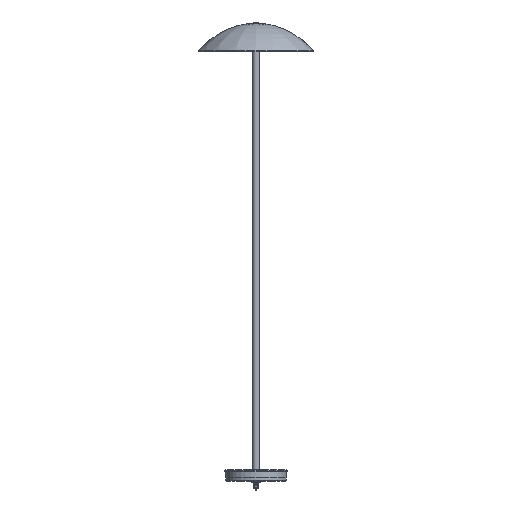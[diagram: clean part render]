
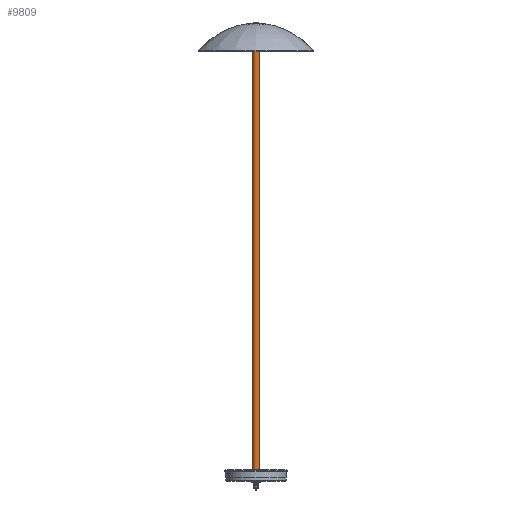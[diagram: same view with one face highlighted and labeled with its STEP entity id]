
A CAD part, front view. The second image highlights one B-rep face of the part: STEP entity #9809.
In plain terms, the highlighted cylindrical face has radius 10 mm (diameter 20 mm), a full revolution.
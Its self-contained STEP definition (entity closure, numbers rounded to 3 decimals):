
#767=CYLINDRICAL_SURFACE('',#10995,10.);
#1165=CIRCLE('',#10992,10.);
#1168=CIRCLE('',#10996,10.);
#1732=FACE_OUTER_BOUND('',#2363,.T.);
#2363=EDGE_LOOP('',(#8934,#8935,#8936,#8937));
#3127=LINE('',#21721,#3870);
#3870=VECTOR('',#13817,10.);
#4782=VERTEX_POINT('',#21492);
#4785=VERTEX_POINT('',#21719);
#6168=EDGE_CURVE('',#4782,#4782,#1165,.T.);
#6172=EDGE_CURVE('',#4785,#4785,#1168,.T.);
#6173=EDGE_CURVE('',#4785,#4782,#3127,.T.);
#8934=ORIENTED_EDGE('',*,*,#6172,.F.);
#8935=ORIENTED_EDGE('',*,*,#6173,.T.);
#8936=ORIENTED_EDGE('',*,*,#6168,.T.);
#8937=ORIENTED_EDGE('',*,*,#6173,.F.);
#9809=ADVANCED_FACE('',(#1732),#767,.T.);
#10992=AXIS2_PLACEMENT_3D('',#21493,#13807,#13808);
#10995=AXIS2_PLACEMENT_3D('',#21718,#13813,#13814);
#10996=AXIS2_PLACEMENT_3D('',#21720,#13815,#13816);
#13807=DIRECTION('center_axis',(0.,0.,-1.));
#13808=DIRECTION('ref_axis',(1.,0.,0.));
#13813=DIRECTION('center_axis',(0.,0.,-1.));
#13814=DIRECTION('ref_axis',(0.,1.,0.));
#13815=DIRECTION('center_axis',(0.,0.,-1.));
#13816=DIRECTION('ref_axis',(1.,0.,0.));
#13817=DIRECTION('',(0.,0.,1.));
#21492=CARTESIAN_POINT('',(0.,-10.,1042.));
#21493=CARTESIAN_POINT('Origin',(0.,0.,1042.));
#21718=CARTESIAN_POINT('Origin',(0.,0.,432.5));
#21719=CARTESIAN_POINT('',(0.,-10.,-177.));
#21720=CARTESIAN_POINT('Origin',(0.,0.,-177.));
#21721=CARTESIAN_POINT('',(0.,-10.,432.5));
